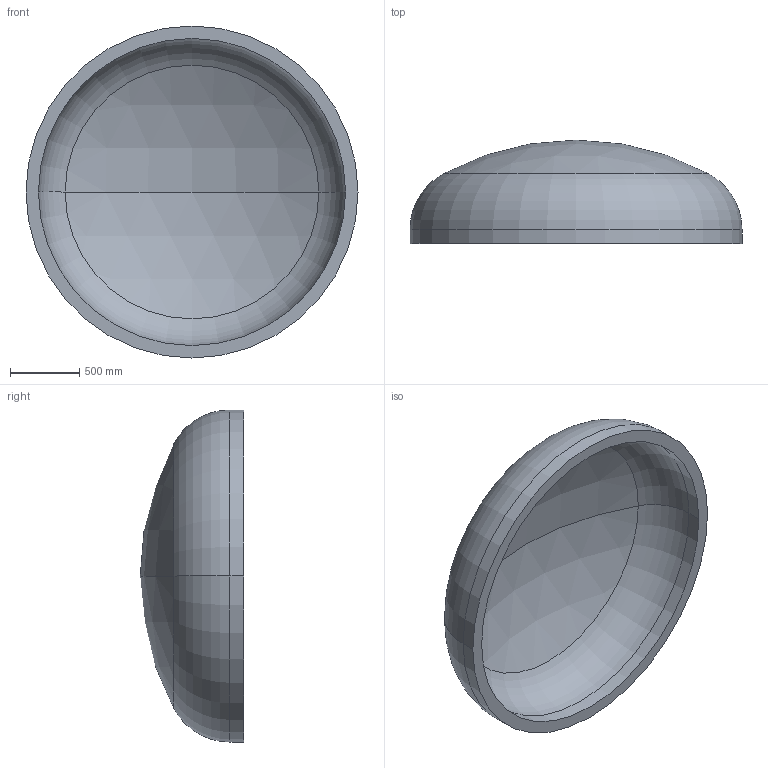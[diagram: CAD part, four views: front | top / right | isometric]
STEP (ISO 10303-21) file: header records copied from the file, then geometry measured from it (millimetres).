
FILE_DESCRIPTION (( 'STEP AP203' ), '1' );
FILE_NAME ('DIN 28013 Korbbogenform_-_Boden DIN 28013 - 2400 x 100 - I - s=90.step', '2016-07-01T15:39:00', ( '' ), ( '' ), 'SwSTEP 2.0', 'SolidWorks 2013', '' );
FILE_SCHEMA (( 'CONFIG_CONTROL_DESIGN' ));
Length unit declared in the file: millimetre
Products named in the file (1): DIN 28013 Korbbogenform_-_Boden DIN 28013 - 2400 x 100 - I - s=90
Bounding box: 2400 x 748.05 x 2400 mm (x, y, z)
Volume: 602530908.4 mm3; surface area: 14059673.4 mm2
Topology: 1 solids, 1 shells, 13 faces, 24 edges, 14 vertices
Faces by surface type: torus 4, cylinder 4, sphere 4, plane 1
Entity records: 407 total; most frequent: DIRECTION 72, CARTESIAN_POINT 52, ORIENTED_EDGE 48, AXIS2_PLACEMENT_3D 34, EDGE_CURVE 24, CIRCLE 20, VERTEX_POINT 14, EDGE_LOOP 14
